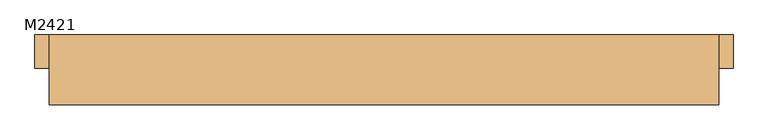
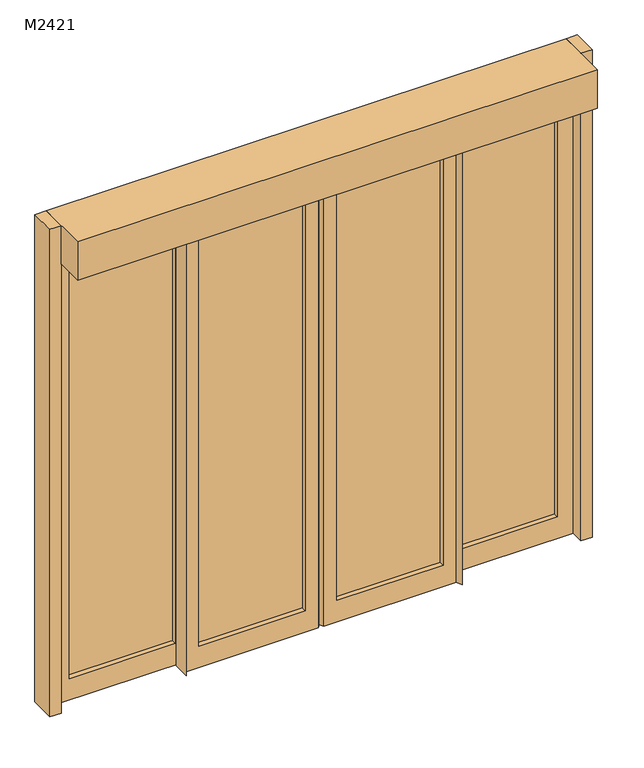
"""IFC4 building model written with IfcOpenShell, lengths in millimetres: door geometry, 四扇推拉门 2 : M2421."""

from ifc_helpers import new_model, si_unit, frame, origin, origin_with_axes, place, context, project, spatial, polyline, circle_curve, outline, extrude, faceted_brep, source, transform, mapped, element, save
from ifc_brep_helpers import plane_surface, cylinder_surface, advanced_brep


def m2421_7f85be3f(model_context):
    return source(origin(), model_context, "Body", "SolidModel", [
        faceted_brep([(-552.7, 120.0, 2100.0), (-1150.0, 120.0, 2100.0), (-1150.0, 66.025, 2100.0), (-540.0, 66.025, 2100.0), (-540.0, 100.95, 2100.0), (-552.7, 120.0, 0.0), (-540.0, 100.95, 0.0), (-540.0, 66.025, 0.0), (-1150.0, 66.025, 0.0), (-1150.0, 120.0, 0.0), (-1080.0, 120.0, 2000.0), (-1080.0, 120.0, 100.0), (-610.0, 120.0, 100.0), (-610.0, 120.0, 2000.0), (-1080.0, 66.025, 100.0), (-1080.0, 66.025, 2000.0), (-610.0, 66.025, 2000.0), (-610.0, 66.025, 100.0)], [[[0, 1, 2, 3, 4]], [[5, 6, 7, 8, 9]], [[1, 0, 5, 9], [10, 11, 12, 13]], [[2, 1, 9, 8]], [[3, 2, 8, 7], [14, 15, 16, 17]], [[4, 3, 7, 6]], [[0, 4, 6, 5]], [[14, 11, 10, 15]], [[11, 14, 17, 12]], [[12, 17, 16, 13]], [[15, 10, 13, 16]]]),
        extrude(outline(polyline([(1150.0, 120.0), (1150.0, -120.0), (-1150.0, -120.0), (-1150.0, 120.0), (1150.0, 120.0)])), frame((0.0, 0.0, 2100.0), z_axis=(0.0, 0.0, 1.0), x_axis=(1.0, 0.0, 0.0)), (0.0, 0.0, 1.0), 180.0),
        advanced_brep(
        [(12.7, 59.675, 2100.0), (12.7, 5.7, 2100.0), (597.3, 5.7, 2100.0), (610.0, -19.05, 2100.0), (610.0, 59.675, 2100.0), (12.7, 59.675, 0.0), (610.0, 59.675, 0.0), (610.0, -19.05, 0.0), (597.3, 5.7, 0.0), (12.7, 5.7, 0.0), (70.0, 5.7, 2000.0), (540.0, 5.7, 2000.0), (540.0, 5.7, 100.0), (70.0, 5.7, 100.0), (540.0, 59.675, 2000.0), (70.0, 59.675, 2000.0), (70.0, 59.675, 100.0), (540.0, 59.675, 100.0)],
        [
            (0, 1, circle_curve(frame((34.9206911, 32.6875, 2100.0), z_axis=(0.0, 0.0, 1.0), x_axis=(-1.0, 0.0, 0.0)), 34.9583219)),
            (1, 2),
            (2, 3),
            (3, 4),
            (4, 0),
            (5, 6),
            (6, 7),
            (7, 8),
            (8, 9),
            (9, 5, circle_curve(frame((34.9206911, 32.6875, 0.0), z_axis=(0.0, 0.0, -1.0), x_axis=(-1.0, 0.0, 0.0)), 34.9583219)),
            (0, 5),
            (9, 1),
            (8, 2),
            (10, 11),
            (11, 12),
            (12, 13),
            (13, 10),
            (7, 3),
            (6, 4),
            (14, 15),
            (15, 16),
            (16, 17),
            (17, 14),
            (14, 11),
            (10, 15),
            (17, 12),
            (16, 13),
        ],
        [
            plane_surface(frame((-0.0376308, 32.6875, 2100.0), z_axis=(0.0, 0.0, 1.0), x_axis=(0.0, -1.0, 0.0))),
            plane_surface(frame((-0.0376308, 32.6875, 0.0), z_axis=(0.0, 0.0, -1.0), x_axis=(0.0, 1.0, 0.0))),
            cylinder_surface(frame((34.9206911, 32.6875, 0.0), z_axis=(0.0, 0.0, 1.0), x_axis=(-1.0, 0.0, 0.0)), 34.9583219),
            plane_surface(frame((12.7, 5.7, 2100.0), z_axis=(0.0, -1.0, 0.0), x_axis=(0.0, 0.0, -1.0))),
            plane_surface(frame((597.3, 5.7, 2100.0), z_axis=(-0.8897051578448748, -0.45653557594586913, 0.0), x_axis=(0.0, 0.0, -1.0))),
            plane_surface(frame((610.0, -19.05, 2100.0), z_axis=(1.0, 0.0, 0.0), x_axis=(0.0, 0.0, -1.0))),
            plane_surface(frame((610.0, 59.675, 2100.0), z_axis=(0.0, 1.0, 0.0), x_axis=(0.0, 0.0, -1.0))),
            plane_surface(frame((70.0, 59.675, 2000.0), z_axis=(0.0, 0.0, -1.0), x_axis=(0.0, -1.0, 0.0))),
            plane_surface(frame((540.0, 59.675, 2000.0), z_axis=(-1.0, 0.0, 0.0), x_axis=(0.0, -1.0, 0.0))),
            plane_surface(frame((540.0, 59.675, 100.0), z_axis=(0.0, 0.0, 1.0), x_axis=(0.0, -1.0, 0.0))),
            plane_surface(frame((70.0, 59.675, 100.0), z_axis=(1.0, 0.0, 0.0), x_axis=(0.0, -1.0, 0.0))),
        ],
        [
            (0, [[1, 2, 3, 4, 5]]),
            (1, [[6, 7, 8, 9, 10]]),
            (2, [[-1, 11, -10, 12]]),
            (3, [[-2, -12, -9, 13], [14, 15, 16, 17]]),
            (4, [[-3, -13, -8, 18]]),
            (5, [[-4, -18, -7, 19]]),
            (6, [[-5, -19, -6, -11], [20, 21, 22, 23]]),
            (7, [[24, -14, 25, -20]]),
            (8, [[-24, -23, 26, -15]]),
            (9, [[-26, -22, 27, -16]]),
            (10, [[-25, -17, -27, -21]]),
        ],
    ),
        faceted_brep([(1150.0, 120.0, 2100.0), (552.7, 120.0, 2100.0), (540.0, 100.95, 2100.0), (540.0, 66.025, 2100.0), (1150.0, 66.025, 2100.0), (1150.0, 120.0, 0.0), (1150.0, 66.025, 0.0), (540.0, 66.025, 0.0), (540.0, 100.95, 0.0), (552.7, 120.0, 0.0), (610.0, 120.0, 2000.0), (610.0, 120.0, 100.0), (1080.0, 120.0, 100.0), (1080.0, 120.0, 2000.0), (610.0, 66.025, 100.0), (610.0, 66.025, 2000.0), (1080.0, 66.025, 2000.0), (1080.0, 66.025, 100.0)], [[[0, 1, 2, 3, 4]], [[5, 6, 7, 8, 9]], [[1, 0, 5, 9], [10, 11, 12, 13]], [[2, 1, 9, 8]], [[3, 2, 8, 7]], [[4, 3, 7, 6], [14, 15, 16, 17]], [[0, 4, 6, 5]], [[14, 11, 10, 15]], [[11, 14, 17, 12]], [[12, 17, 16, 13]], [[15, 10, 13, 16]]]),
        advanced_brep(
        [(-12.7, 59.675, 2100.0), (-610.0, 59.675, 2100.0), (-610.0, -19.05, 2100.0), (-597.3, 5.7, 2100.0), (-12.7, 5.7, 2100.0), (-12.7, 59.675, 0.0), (-12.7, 5.7, 0.0), (-597.3, 5.7, 0.0), (-610.0, -19.05, 0.0), (-610.0, 59.675, 0.0), (-70.0, 59.675, 100.0), (-70.0, 59.675, 2000.0), (-540.0, 59.675, 2000.0), (-540.0, 59.675, 100.0), (-70.0, 5.7, 2000.0), (-70.0, 5.7, 100.0), (-540.0, 5.7, 100.0), (-540.0, 5.7, 2000.0)],
        [
            (0, 1),
            (1, 2),
            (2, 3),
            (3, 4),
            (4, 0, circle_curve(frame((-34.9206911, 32.6875, 2100.0), z_axis=(0.0, 0.0, 1.0), x_axis=(1.0, 0.0, 0.0)), 34.9583219)),
            (5, 6, circle_curve(frame((-34.9206911, 32.6875, 0.0), z_axis=(0.0, 0.0, -1.0), x_axis=(1.0, 0.0, 0.0)), 34.9583219)),
            (6, 7),
            (7, 8),
            (8, 9),
            (9, 5),
            (0, 5),
            (9, 1),
            (10, 11),
            (11, 12),
            (12, 13),
            (13, 10),
            (8, 2),
            (7, 3),
            (6, 4),
            (14, 15),
            (15, 16),
            (16, 17),
            (17, 14),
            (10, 15),
            (14, 11),
            (13, 16),
            (12, 17),
        ],
        [
            plane_surface(frame((-12.7, 59.675, 2100.0), z_axis=(0.0, 0.0, 1.0), x_axis=(-1.0, 0.0, 0.0))),
            plane_surface(frame((-12.7, 59.675, 0.0), z_axis=(0.0, 0.0, -1.0), x_axis=(1.0, 0.0, 0.0))),
            plane_surface(frame((-12.7, 59.675, 2100.0), z_axis=(0.0, 1.0, 0.0), x_axis=(0.0, 0.0, -1.0))),
            plane_surface(frame((-610.0, 59.675, 2100.0), z_axis=(-1.0, 0.0, 0.0), x_axis=(0.0, 0.0, -1.0))),
            plane_surface(frame((-610.0, -19.05, 2100.0), z_axis=(0.8897051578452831, -0.45653557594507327, 0.0), x_axis=(0.0, 0.0, -1.0))),
            plane_surface(frame((-597.3, 5.7, 2100.0), z_axis=(0.0, -1.0, 0.0), x_axis=(0.0, 0.0, -1.0))),
            cylinder_surface(frame((-34.9206911, 32.6875, 0.0), z_axis=(0.0, 0.0, 1.0), x_axis=(1.0, 0.0, 0.0)), 34.9583219),
            plane_surface(frame((-70.0, 59.675, 2000.0), z_axis=(-1.0, 0.0, 0.0), x_axis=(0.0, -1.0, 0.0))),
            plane_surface(frame((-70.0, 59.675, 100.0), z_axis=(0.0, 0.0, 1.0), x_axis=(0.0, -1.0, 0.0))),
            plane_surface(frame((-540.0, 59.675, 100.0), z_axis=(1.0, 0.0, 0.0), x_axis=(0.0, -1.0, 0.0))),
            plane_surface(frame((-540.0, 59.675, 2000.0), z_axis=(0.0, 0.0, -1.0), x_axis=(0.0, -1.0, 0.0))),
        ],
        [
            (0, [[1, 2, 3, 4, 5]]),
            (1, [[6, 7, 8, 9, 10]]),
            (2, [[-1, 11, -10, 12], [13, 14, 15, 16]]),
            (3, [[-2, -12, -9, 17]]),
            (4, [[-3, -17, -8, 18]]),
            (5, [[-4, -18, -7, 19], [20, 21, 22, 23]]),
            (6, [[-5, -19, -6, -11]]),
            (7, [[24, -20, 25, -13]]),
            (8, [[-24, -16, 26, -21]]),
            (9, [[-26, -15, 27, -22]]),
            (10, [[-25, -23, -27, -14]]),
        ],
    ),
        extrude(outline(polyline([(-1150.0, 120.0), (-1150.0, 5.7), (-1200.0, 5.7), (-1200.0, 120.0), (-1150.0, 120.0)])), origin_with_axes(), (0.0, 0.0, 1.0), 2280.0),
        extrude(outline(polyline([(1200.0, 120.0), (1200.0, 5.7), (1150.0, 5.7), (1150.0, 120.0), (1200.0, 120.0)])), origin_with_axes(), (0.0, 0.0, 1.0), 2280.0),
        extrude(outline(polyline([(-1080.0, 98.0125), (-610.0, 98.0125), (-610.0, 88.0125), (-1080.0, 88.0125), (-1080.0, 98.0125)])), frame((0.0, 0.0, 100.0), z_axis=(0.0, 0.0, 1.0), x_axis=(1.0, 0.0, 0.0)), (0.0, 0.0, 1.0), 1900.0),
        extrude(outline(polyline([(610.0, 98.0125), (1080.0, 98.0125), (1080.0, 88.0125), (610.0, 88.0125), (610.0, 98.0125)])), frame((0.0, 0.0, 100.0), z_axis=(0.0, 0.0, 1.0), x_axis=(1.0, 0.0, 0.0)), (0.0, 0.0, 1.0), 1900.0),
        extrude(outline(polyline([(-540.0, 37.6875), (-70.0, 37.6875), (-70.0, 27.6875), (-540.0, 27.6875), (-540.0, 37.6875)])), frame((0.0, 0.0, 100.0), z_axis=(0.0, 0.0, 1.0), x_axis=(1.0, 0.0, 0.0)), (0.0, 0.0, 1.0), 1900.0),
        extrude(outline(polyline([(70.0, 37.6875), (540.0, 37.6875), (540.0, 27.6875), (70.0, 27.6875), (70.0, 37.6875)])), frame((0.0, 0.0, 100.0), z_axis=(0.0, 0.0, 1.0), x_axis=(1.0, 0.0, 0.0)), (0.0, 0.0, 1.0), 1900.0),
    ])


if __name__ == "__main__":
    model = new_model("IFC4")
    model_context = context("Model", 3, world=origin())
    ifc_project = project(units=[si_unit("LENGTHUNIT", "METRE", prefix="MILLI")], contexts=[model_context])
    site = spatial("IfcSite", under=ifc_project)
    building = spatial("IfcBuilding", under=site)
    placement = place(None, origin())
    m2421_shape = m2421_7f85be3f(model_context)
    element("IfcDoor", 1, ObjectType="四扇推拉门 2 : M2421", at=placement, inside=building, context=model_context, shape_type="MappedRepresentation", body=[
        mapped(m2421_shape, transform((0.0, 0.0, 0.0), x_axis=(1.0, 0.0, 0.0), y_axis=(0.0, 1.0, 0.0), z_axis=(0.0, 0.0, 1.0))),
    ])
    save(model, "model.ifc")
